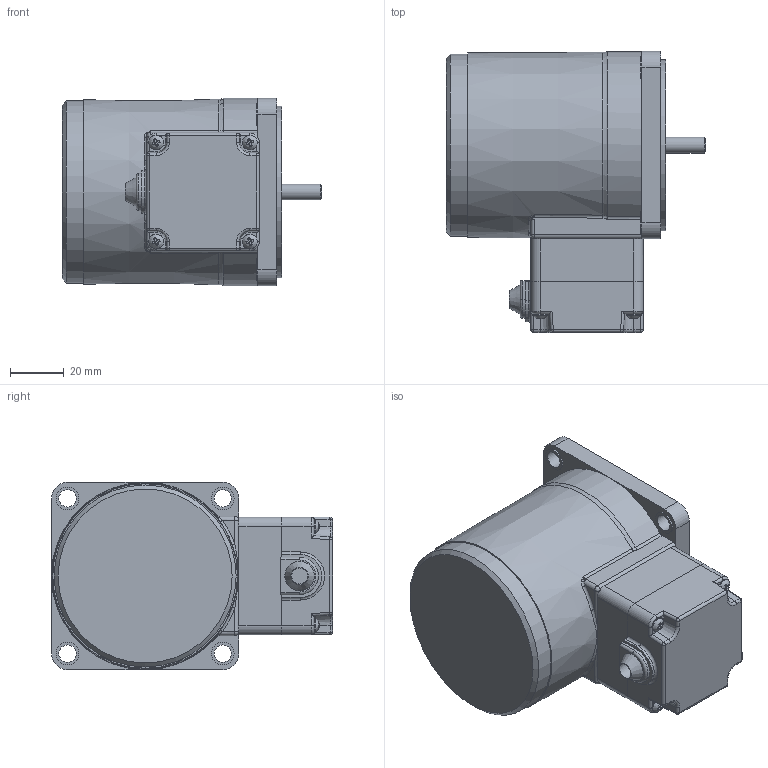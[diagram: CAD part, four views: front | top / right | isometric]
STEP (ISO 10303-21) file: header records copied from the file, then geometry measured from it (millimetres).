
FILE_DESCRIPTION(/* description */ (''),/* implementation_level */ '2;1');
FILE_NAME(/* name */ 'E:\도면작업\2016\0704) 미주향 SG 도면\3D MOTOR\TERMINAL BOX TYPE\INDUCTION TERMINAL BOX\SG7I15G_-T.stp',/* time_stamp */ '2017-01-23T17:12:07+09:00',/* author */ ('jy-jung'),/* organization */ (''),/* preprocessor_version */ 'ST-DEVELOPER v15.6',/* originating_system */ 'Autodesk Inventor 2015',/* authorisation */ '');
FILE_SCHEMA (('AUTOMOTIVE_DESIGN { 1 0 10303 214 3 1 1 }'));
Length unit declared in the file: millimetre
Products named in the file (1): 부품1
Bounding box: 96.8 x 105 x 70 mm (x, y, z)
Volume: 339469.3 mm3; surface area: 50268.8 mm2
Topology: 1 solids, 7 shells, 577 faces, 1487 edges, 919 vertices
Faces by surface type: plane 280, cylinder 202, torus 37, bspline 22, cone 18, sphere 18
Full cylindrical faces by diameter (mm): 2.5 x2, 3 x4, 3.5 x8, 5.6 x4, 5.96 x1, 6 x1, 6.5 x4, 8 x1, 8.5 x4, 28 x1, 64 x1, 68 x1
Entity records: 18364 total; most frequent: CARTESIAN_POINT 3957, DIRECTION 2926, ORIENTED_EDGE 2808, EDGE_CURVE 1404, AXIS2_PLACEMENT_3D 1062, VERTEX_POINT 910, LINE 802, VECTOR 802
